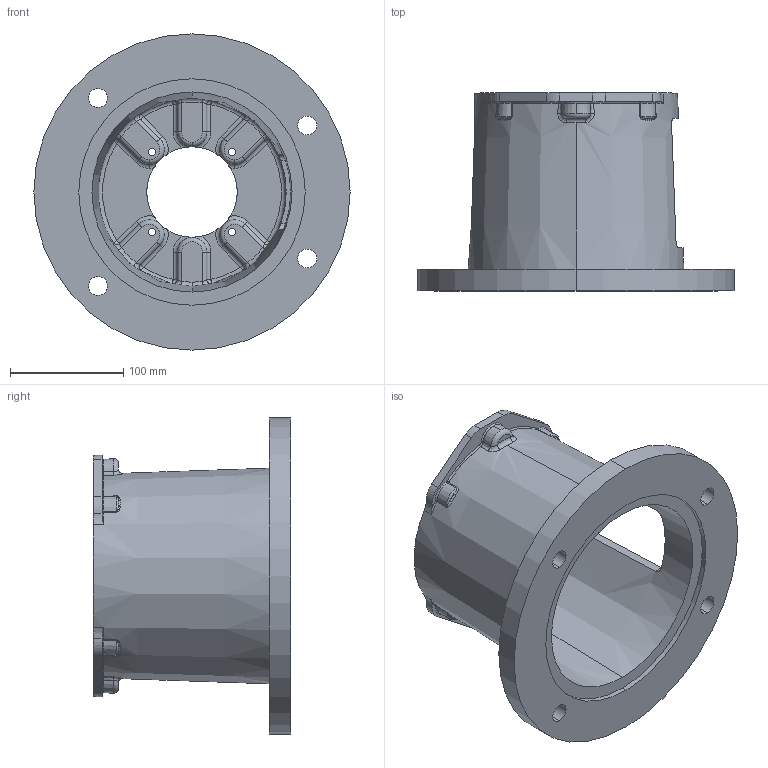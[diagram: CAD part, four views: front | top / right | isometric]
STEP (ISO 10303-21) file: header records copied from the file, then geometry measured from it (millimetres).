
FILE_DESCRIPTION (( 'STEP AP203' ), '1' );
FILE_NAME ('E7876880MS.STEP', '2014-11-04T13:50:57', ( '' ), ( '' ), 'SwSTEP 2.0', 'SolidWorks 2014', '' );
FILE_SCHEMA (( 'CONFIG_CONTROL_DESIGN' ));
Length unit declared in the file: inch
Products named in the file (1): E7876880MS
Bounding box: 279.4 x 174.75 x 279.4 mm (x, y, z)
Volume: 1496961.3 mm3; surface area: 308630.5 mm2
Topology: 1 solids, 1 shells, 333 faces, 835 edges, 494 vertices
Faces by surface type: torus 95, cylinder 82, bspline 64, plane 50, sphere 24, cone 18
Entity records: 13337 total; most frequent: CARTESIAN_POINT 5625, DIRECTION 1646, ORIENTED_EDGE 1646, EDGE_CURVE 823, AXIS2_PLACEMENT_3D 745, VERTEX_POINT 494, CIRCLE 475, EDGE_LOOP 355
